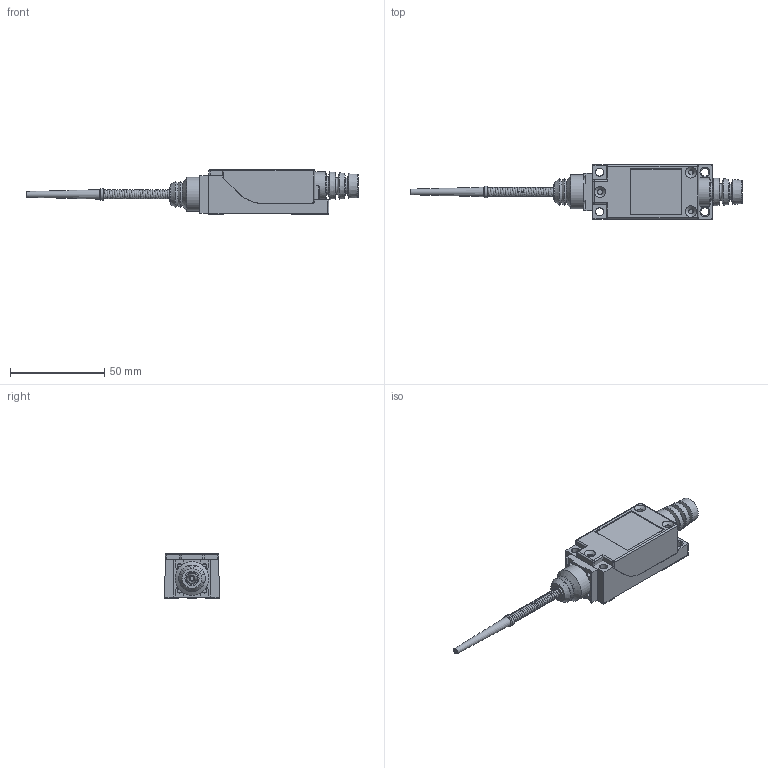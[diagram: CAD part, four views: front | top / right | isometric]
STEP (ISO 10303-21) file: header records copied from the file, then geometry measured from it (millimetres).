
FILE_DESCRIPTION(('FreeCAD Model'),'2;1');
FILE_NAME('Open CASCADE Shape Model','2026-09-09T09:33:58',(''),(''), 'Open CASCADE STEP processor 7.8','FreeCAD','Unknown');
FILE_SCHEMA(('AUTOMOTIVE_DESIGN { 1 0 10303 214 1 1 1 1 }'));
Length unit declared in the file: millimetre
Products named in the file (10): FM8166; COMPOUND008; COMPOUND; COMPOUND001; COMPOUND002; COMPOUND003; COMPOUND004; COMPOUND005; COMPOUND006; COMPOUND007
Assembly tree (9 placements, depth 3):
  FM8166
    COMPOUND008
      COMPOUND
      COMPOUND001
      COMPOUND002
      COMPOUND003
      COMPOUND004
      COMPOUND005
      COMPOUND006
      COMPOUND007
Bounding box: 175.77 x 28.81 x 23.81 mm (x, y, z)
Volume: 20950.4 mm3; surface area: 24775.7 mm2
Topology: 8 solids, 8 shells, 476 faces, 1153 edges, 714 vertices
Faces by surface type: plane 221, cylinder 140, cone 61, torus 23, bspline 15, sphere 12, extrusion 4
Full cylindrical faces by diameter (mm): 2 x1, 2.5 x1, 2.6 x4, 3 x3, 3.48 x1, 3.75 x1, 5.8 x1, 6 x3, 6.2 x1, 7.5 x2, 8 x1, 12.4 x2, 12.5 x2, 13.6 x1, 14.5 x1, 14.6 x1, 15 x1, 15.3 x1, 18 x1
Entity records: 26002 total; most frequent: CARTESIAN_POINT 14680, DIRECTION 2332, ORIENTED_EDGE 2278, EDGE_CURVE 1139, AXIS2_PLACEMENT_3D 859, VERTEX_POINT 714, VECTOR 614, LINE 610
